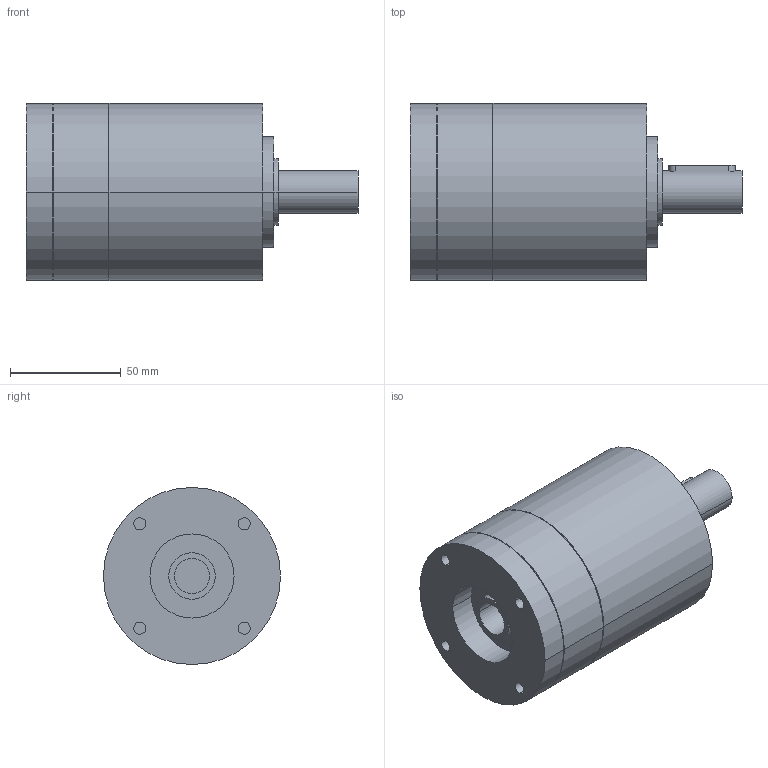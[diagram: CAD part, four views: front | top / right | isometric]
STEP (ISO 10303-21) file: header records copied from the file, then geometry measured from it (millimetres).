
FILE_DESCRIPTION(('CoCreate Modeling STEP Export'),'2;1');
FILE_NAME('GPR100_ig-3-4-5-6_19_B14_15.87_P01.stp','2014-08-26T10:07:31',(''),(''),'CoCreate Modeling STEP processor for AP214 (Solid Model)','CoCreate Modeling 16.00C 25-Feb-2009 (C) Parametric Technology GmbH','');
FILE_SCHEMA(('AUTOMOTIVE_DESIGN { 1 0 10303 214 1 1 1 1 }'));
Length unit declared in the file: millimetre
Products named in the file (2): GPR100_ig-3-4-5-6_19_B14_15.87_P01
Assembly tree (1 placements, depth 2):
  GPR100_ig-3-4-5-6_19_B14_15.87_P01
    GPR100_ig-3-4-5-6_19_B14_15.87_P01
Bounding box: 150 x 80 x 80 mm (x, y, z)
Volume: 536882 mm3; surface area: 47047.2 mm2
Topology: 1 solids, 1 shells, 77 faces, 193 edges, 137 vertices
Faces by surface type: cylinder 46, plane 25, cone 6
Entity records: 1951 total; most frequent: ORIENTED_EDGE 382, CARTESIAN_POINT 357, DIRECTION 254, EDGE_CURVE 191, VERTEX_POINT 137, AXIS2_PLACEMENT_3D 98, EDGE_LOOP 98, FACE_OUTER_BOUND 77
